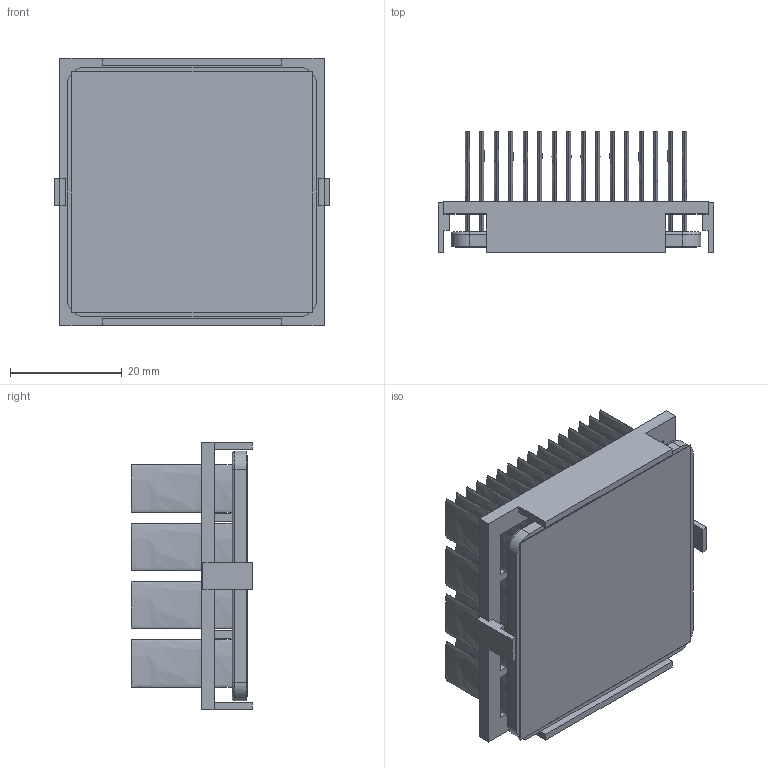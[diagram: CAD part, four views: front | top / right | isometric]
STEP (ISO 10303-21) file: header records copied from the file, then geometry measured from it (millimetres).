
FILE_DESCRIPTION (( 'STEP AP214' ), '1' );
FILE_NAME ('INM45001-21W-2.6O.STEP', '2023-02-28T00:43:47', ( '' ), ( '' ), 'SwSTEP 2.0', 'SolidWorks 2020', '' );
FILE_SCHEMA (( 'AUTOMOTIVE_DESIGN' ));
Length unit declared in the file: inch
Products named in the file (1): INM45001-21W-2.6O
Bounding box: 49.2 x 21.7 x 47.7 mm (x, y, z)
Volume: 13776.9 mm3; surface area: 31321 mm2
Topology: 3 solids, 3 shells, 274 faces, 604 edges, 400 vertices
Faces by surface type: plane 134, bspline 128, cylinder 8, torus 4
Entity records: 11396 total; most frequent: CARTESIAN_POINT 2943, ORIENTED_EDGE 1208, DIRECTION 662, EDGE_CURVE 604, VERTEX_POINT 400, EDGE_LOOP 340, LINE 328, VECTOR 328
